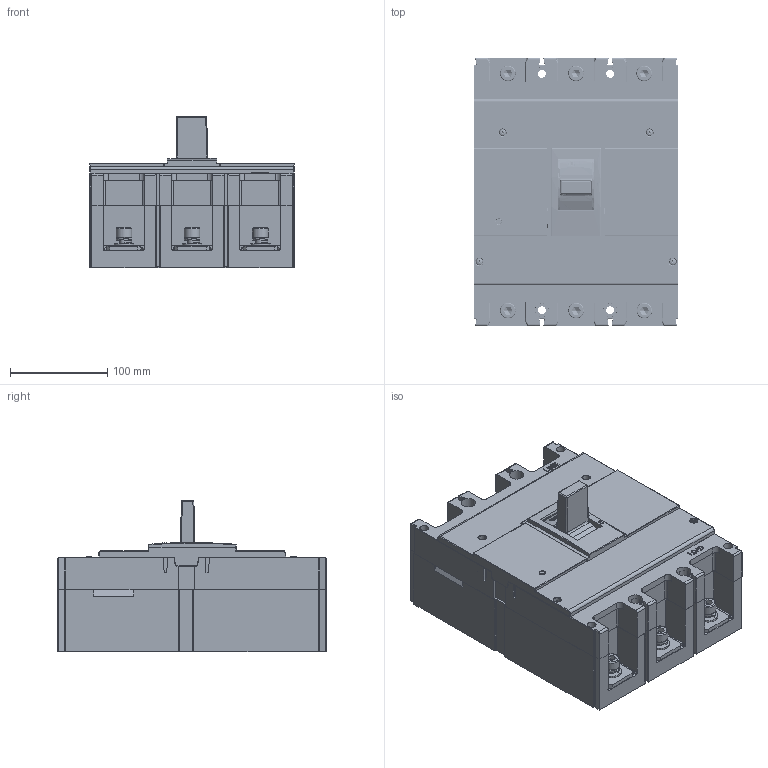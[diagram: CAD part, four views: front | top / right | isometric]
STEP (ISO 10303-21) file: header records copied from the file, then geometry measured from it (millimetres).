
FILE_DESCRIPTION(/* description */ (''),/* implementation_level */ '2;1');
FILE_NAME(/* name */ 'YCM7-800M.stp',/* time_stamp */ '2022-07-30T14:23:13+08:00',/* author */ (''),/* organization */ (''),/* preprocessor_version */ 'ST-DEVELOPER v16',/* originating_system */ 'SIEMENS PLM Software NX 10.0',/* authorisation */ '');
FILE_SCHEMA (('CONFIG_CONTROL_DESIGN'));
Products named in the file (1): YCM7-800M_stp
Bounding box: 210 x 275.5 x 155.76 mm (x, y, z)
Volume: 1820325.6 mm3; surface area: 935773.3 mm2
Topology: 43 solids, 43 shells, 4818 faces, 13603 edges, 8954 vertices
Faces by surface type: plane 3321, cylinder 1181, bspline 87, cone 72, torus 63, extrusion 56, sphere 36, revolution 2
Full cylindrical faces by diameter (mm): 3 x1, 3.2 x6, 3.3 x1, 3.4 x5, 3.5 x8, 3.545 x4, 3.9 x6, 4 x53, 4.2 x35, 4.5 x10, 5.1 x3, 5.3 x12, 5.4 x8, 5.5 x15, 5.6 x1, 5.8 x1, 6 x1, 6.2 x1, 6.6 x1, 6.82 x4, 7 x56, 7.05 x2, 7.5 x4, 8 x4, 8.4 x6, 8.9 x2, 9 x17, 9.05 x2, 9.5 x18, 9.7 x1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
Entity records: 172083 total; most frequent: CARTESIAN_POINT 49249, ORIENTED_EDGE 25766, DIRECTION 24257, EDGE_CURVE 12883, VECTOR 9763, LINE 9707, VERTEX_POINT 8717, AXIS2_PLACEMENT_3D 7246
